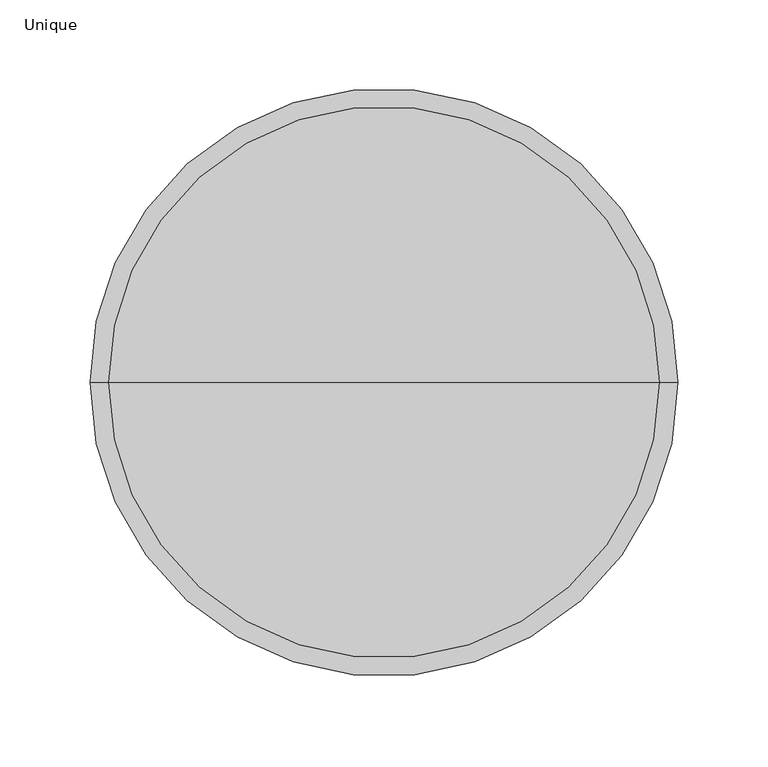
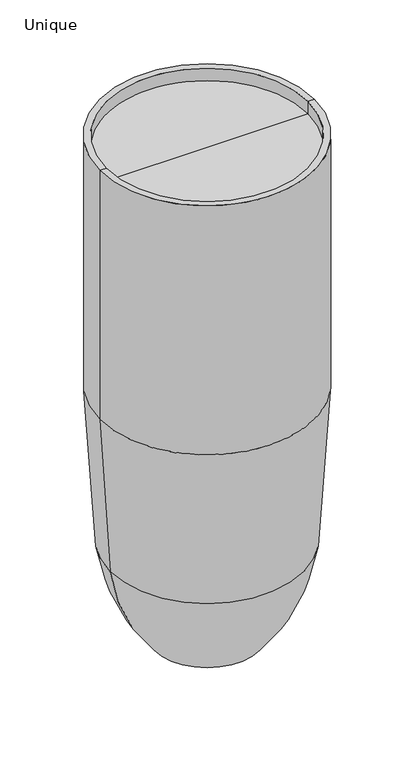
"""IFC4 building model written with IfcOpenShell, lengths in millimetres: proxy geometry, Snake Plant Concrete Vase : Unique."""

from ifc_helpers import new_model, si_unit, point, frame, origin, origin_with_axes, place, context, project, spatial, polyline, circle_curve, ellipse_curve, trimmed, source, transform, mapped, element, save
from ifc_brep_helpers import plane_surface, cylinder_surface, revolved_surface, advanced_brep


def unique_76ef0c16(model_context):
    return source(origin(), model_context, "Body", "AdvancedBrep", [
        advanced_brep(
        [(-153.2177945, 0.0, 400.0349728), (153.2177945, 0.0, 400.0349728), (137.1543168, 0.0, 151.2863588), (-137.1543168, 0.0, 151.2863588), (75.3713087, 0.0, 10.0), (-75.3713087, 0.0, 10.0), (0.0, 0.0, 10.0), (0.0, 0.0, 780.0), (153.2177945, 0.0, 780.0), (-153.2177945, 0.0, 780.0)],
        [
            (0, 1, circle_curve(frame((0.0, 0.0, 400.0349728), z_axis=(0.0, 0.0, -1.0), x_axis=(1.0, 0.0, 0.0)), 153.2177945)),
            (1, 2, circle_curve(frame((-1780.2523564, 0.0, 400.0), z_axis=(0.0, 1.0, 0.0), x_axis=(1.0, 0.0, 0.0)), 1933.4701513)),
            (2, 3, circle_curve(frame((0.0, 0.0, 151.2863588), z_axis=(0.0, 0.0, 1.0), x_axis=(1.0, 0.0, 0.0)), 137.1543168)),
            (3, 0, circle_curve(frame((1780.2523564, 0.0, 400.0), z_axis=(0.0, 1.0, 0.0), x_axis=(-1.0, 0.0, 0.0)), 1933.4701513)),
            (1, 0, circle_curve(frame((0.0, 0.0, 400.0349728), z_axis=(0.0, 0.0, -1.0), x_axis=(1.0, 0.0, 0.0)), 153.2177945)),
            (3, 2, circle_curve(frame((0.0, 0.0, 151.2863588), z_axis=(0.0, 0.0, 1.0), x_axis=(1.0, 0.0, 0.0)), 137.1543168)),
            (2, 4, circle_curve(frame((-136.4423955, 0.0, 186.7755618), z_axis=(0.0, 1.0, 0.0), x_axis=(1.0, 0.0, 0.0)), 275.8888264)),
            (4, 5, circle_curve(frame((0.0, 0.0, 10.0), z_axis=(0.0, 0.0, 1.0), x_axis=(1.0, 0.0, 0.0)), 75.3713087)),
            (5, 3, circle_curve(frame((136.4423955, 0.0, 186.7755618), z_axis=(0.0, 1.0, 0.0), x_axis=(-1.0, 0.0, 0.0)), 275.8888264)),
            (5, 4, circle_curve(frame((0.0, 0.0, 10.0), z_axis=(0.0, 0.0, 1.0), x_axis=(1.0, 0.0, 0.0)), 75.3713087)),
            (4, 6),
            (6, 5),
            (7, 8),
            (8, 9, circle_curve(frame((0.0, 0.0, 780.0), z_axis=(0.0, 0.0, 1.0), x_axis=(1.0, 0.0, 0.0)), 153.2177945)),
            (9, 7),
            (9, 8, circle_curve(frame((0.0, 0.0, 780.0), z_axis=(0.0, 0.0, 1.0), x_axis=(1.0, 0.0, 0.0)), 153.2177945)),
            (8, 1),
            (0, 9),
        ],
        [
            revolved_surface(trimmed(ellipse_curve(frame((-1780.2523564, 0.0, 400.0), z_axis=(0.0, -1.0, 0.0), x_axis=(1.0, 0.0, 0.0)), 1933.4701513, 1933.4701513), [point((137.1543168, 0.0, 151.2863588))], [point((153.2177945, 0.0, 400.0349728))], True, "CARTESIAN"), (0.0, 0.0, 0.0), (0.0, 0.0, 1.0)),
            revolved_surface(trimmed(ellipse_curve(frame((-136.4423955, 0.0, 186.7755618), z_axis=(0.0, -1.0, 0.0), x_axis=(1.0, 0.0, 0.0)), 275.8888264, 275.8888264), [point((75.3713087, 0.0, 10.0))], [point((137.1543168, 0.0, 151.2863588))], True, "CARTESIAN"), (0.0, 0.0, 0.0), (0.0, 0.0, 1.0)),
            plane_surface(frame((0.0, 0.0, 10.0), z_axis=(0.0, 0.0, -1.0), x_axis=(1.0, 0.0, 0.0))),
            plane_surface(frame((0.0, 0.0, 780.0), z_axis=(0.0, 0.0, 1.0), x_axis=(1.0, 0.0, 0.0))),
            cylinder_surface(origin_with_axes(), 153.2177945),
        ],
        [
            (0, [[1, 2, 3, 4]]),
            (0, [[5, -4, 6, -2]]),
            (1, [[-3, 7, 8, 9]]),
            (1, [[-6, -9, 10, -7]]),
            (2, [[-8, 11, 12]]),
            (2, [[-10, -12, -11]]),
            (3, [[13, 14, 15]]),
            (3, [[-15, 16, -13]]),
            (4, [[-14, 17, -1, 18]]),
            (4, [[-16, -18, -5, -17]]),
        ],
    ),
        advanced_brep(
        [(-137.1543168, 0.0, 151.2863588), (137.1543168, 0.0, 151.2863588), (153.2177945, 0.0, 400.0349728), (-153.2177945, 0.0, 400.0349728), (-75.3713087, 0.0, 10.0), (75.3713087, 0.0, 10.0), (0.0, 0.0, 10.0), (-80.0, 0.0, 0.0), (80.0, 0.0, 0.0), (0.0, 0.0, 0.0), (-147.0712357, 0.0, 150.0), (147.0712357, 0.0, 150.0), (-163.2177945, 0.0, 400.0351537), (163.2177945, 0.0, 400.0351537), (-163.2177945, 0.0, 800.0), (163.2177945, 0.0, 800.0), (-153.2177945, 0.0, 800.0), (153.2177945, 0.0, 800.0)],
        [
            (0, 1, circle_curve(frame((0.0, 0.0, 151.2863588), z_axis=(0.0, 0.0, -1.0), x_axis=(1.0, 0.0, 0.0)), 137.1543168)),
            (1, 2, circle_curve(frame((-1780.2523564, 0.0, 400.0), z_axis=(0.0, -1.0, 0.0), x_axis=(1.0, 0.0, 0.0)), 1933.4701513)),
            (2, 3, circle_curve(frame((0.0, 0.0, 400.0349728), z_axis=(0.0, 0.0, 1.0), x_axis=(1.0, 0.0, 0.0)), 153.2177945)),
            (3, 0, circle_curve(frame((1780.2523564, 0.0, 400.0), z_axis=(0.0, -1.0, 0.0), x_axis=(-1.0, 0.0, 0.0)), 1933.4701513)),
            (1, 0, circle_curve(frame((0.0, 0.0, 151.2863588), z_axis=(0.0, 0.0, -1.0), x_axis=(1.0, 0.0, 0.0)), 137.1543168)),
            (3, 2, circle_curve(frame((0.0, 0.0, 400.0349728), z_axis=(0.0, 0.0, 1.0), x_axis=(1.0, 0.0, 0.0)), 153.2177945)),
            (4, 5, circle_curve(frame((0.0, 0.0, 10.0), z_axis=(0.0, 0.0, -1.0), x_axis=(1.0, 0.0, 0.0)), 75.3713087)),
            (5, 1, circle_curve(frame((-136.4423955, 0.0, 186.7755618), z_axis=(0.0, -1.0, 0.0), x_axis=(1.0, 0.0, 0.0)), 275.8888264)),
            (0, 4, circle_curve(frame((136.4423955, 0.0, 186.7755618), z_axis=(0.0, -1.0, 0.0), x_axis=(-1.0, 0.0, 0.0)), 275.8888264)),
            (5, 4, circle_curve(frame((0.0, 0.0, 10.0), z_axis=(0.0, 0.0, -1.0), x_axis=(1.0, 0.0, 0.0)), 75.3713087)),
            (6, 5),
            (4, 6),
            (7, 8, circle_curve(frame((0.0, 0.0, 0.0), z_axis=(0.0, 0.0, -1.0), x_axis=(1.0, 0.0, 0.0)), 80.0)),
            (8, 9),
            (9, 7),
            (8, 7, circle_curve(frame((0.0, 0.0, 0.0), z_axis=(0.0, 0.0, -1.0), x_axis=(1.0, 0.0, 0.0)), 80.0)),
            (10, 11, circle_curve(frame((0.0, 0.0, 150.0), z_axis=(0.0, 0.0, -1.0), x_axis=(1.0, 0.0, 0.0)), 147.0712357)),
            (11, 8, circle_curve(frame((-136.4423955, 0.0, 186.7755618), z_axis=(0.0, 1.0, 0.0), x_axis=(1.0, 0.0, 0.0)), 285.8888264)),
            (7, 10, circle_curve(frame((136.4423955, 0.0, 186.7755618), z_axis=(0.0, 1.0, 0.0), x_axis=(-1.0, 0.0, 0.0)), 285.8888264)),
            (11, 10, circle_curve(frame((0.0, 0.0, 150.0), z_axis=(0.0, 0.0, -1.0), x_axis=(1.0, 0.0, 0.0)), 147.0712357)),
            (12, 13, circle_curve(frame((0.0, 0.0, 400.0351537), z_axis=(0.0, 0.0, -1.0), x_axis=(1.0, 0.0, 0.0)), 163.2177945)),
            (13, 11, circle_curve(frame((-1780.2523564, 0.0, 400.0), z_axis=(0.0, 1.0, 0.0), x_axis=(1.0, 0.0, 0.0)), 1943.4701513)),
            (10, 12, circle_curve(frame((1780.2523564, 0.0, 400.0), z_axis=(0.0, 1.0, 0.0), x_axis=(-1.0, 0.0, 0.0)), 1943.4701513)),
            (13, 12, circle_curve(frame((0.0, 0.0, 400.0351537), z_axis=(0.0, 0.0, -1.0), x_axis=(1.0, 0.0, 0.0)), 163.2177945)),
            (14, 15, circle_curve(frame((0.0, 0.0, 800.0), z_axis=(0.0, 0.0, -1.0), x_axis=(1.0, 0.0, 0.0)), 163.2177945)),
            (15, 13),
            (12, 14),
            (15, 14, circle_curve(frame((0.0, 0.0, 800.0), z_axis=(0.0, 0.0, -1.0), x_axis=(1.0, 0.0, 0.0)), 163.2177945)),
            (16, 17, circle_curve(frame((0.0, 0.0, 800.0), z_axis=(0.0, 0.0, -1.0), x_axis=(1.0, 0.0, 0.0)), 153.2177945)),
            (17, 15),
            (14, 16),
            (17, 16, circle_curve(frame((0.0, 0.0, 800.0), z_axis=(0.0, 0.0, -1.0), x_axis=(1.0, 0.0, 0.0)), 153.2177945)),
            (2, 17),
            (16, 3),
        ],
        [
            revolved_surface(trimmed(ellipse_curve(frame((-1780.2523564, 0.0, 400.0), z_axis=(0.0, 1.0, 0.0), x_axis=(1.0, 0.0, 0.0)), 1933.4701513, 1933.4701513), [point((153.2177945, 0.0, 400.0349728))], [point((137.1543168, 0.0, 151.2863588))], True, "CARTESIAN"), (0.0, 0.0, 0.0), (0.0, 0.0, 1.0)),
            revolved_surface(trimmed(ellipse_curve(frame((-136.4423955, 0.0, 186.7755618), z_axis=(0.0, 1.0, 0.0), x_axis=(1.0, 0.0, 0.0)), 275.8888264, 275.8888264), [point((137.1543168, 0.0, 151.2863588))], [point((75.3713087, 0.0, 10.0))], True, "CARTESIAN"), (0.0, 0.0, 0.0), (0.0, 0.0, 1.0)),
            plane_surface(frame((0.0, 0.0, 10.0), z_axis=(0.0, 0.0, 1.0), x_axis=(1.0, 0.0, 0.0))),
            plane_surface(frame((0.0, 0.0, 0.0), z_axis=(0.0, 0.0, -1.0), x_axis=(1.0, 0.0, 0.0))),
            revolved_surface(trimmed(ellipse_curve(frame((-136.4423955, 0.0, 186.7755618), z_axis=(0.0, -1.0, 0.0), x_axis=(1.0, 0.0, 0.0)), 285.8888264, 285.8888264), [point((80.0, 0.0, 0.0))], [point((147.0712357, 0.0, 150.0))], True, "CARTESIAN"), (0.0, 0.0, 0.0), (0.0, 0.0, 1.0)),
            revolved_surface(trimmed(ellipse_curve(frame((-1780.2523564, 0.0, 400.0), z_axis=(0.0, -1.0, 0.0), x_axis=(1.0, 0.0, 0.0)), 1943.4701513, 1943.4701513), [point((147.0712357, 0.0, 150.0))], [point((163.2177945, 0.0, 400.0351537))], True, "CARTESIAN"), (0.0, 0.0, 0.0), (0.0, 0.0, 1.0)),
            cylinder_surface(origin_with_axes(), 163.2177945),
            plane_surface(frame((0.0, 0.0, 800.0), z_axis=(0.0, 0.0, 1.0), x_axis=(1.0, 0.0, 0.0))),
            revolved_surface(polyline([(153.2177945, 0.0, 800.0), (153.2177945, 0.0, 400.0349728)]), (0.0, 0.0, 0.0), (0.0, 0.0, 1.0)),
        ],
        [
            (0, [[1, 2, 3, 4]]),
            (0, [[5, -4, 6, -2]]),
            (1, [[7, 8, -1, 9]]),
            (1, [[10, -9, -5, -8]]),
            (2, [[11, -7, 12]]),
            (2, [[-12, -10, -11]]),
            (3, [[13, 14, 15]]),
            (3, [[16, -15, -14]]),
            (4, [[17, 18, -13, 19]]),
            (4, [[20, -19, -16, -18]]),
            (5, [[21, 22, -17, 23]]),
            (5, [[24, -23, -20, -22]]),
            (6, [[25, 26, -21, 27]]),
            (6, [[28, -27, -24, -26]]),
            (7, [[29, 30, -25, 31]]),
            (7, [[32, -31, -28, -30]]),
            (8, [[-3, 33, -29, 34]]),
            (8, [[-6, -34, -32, -33]]),
        ],
    ),
    ])


if __name__ == "__main__":
    model = new_model("IFC4")
    model_context = context("Model", 3, world=origin())
    ifc_project = project(units=[si_unit("LENGTHUNIT", "METRE", prefix="MILLI")], contexts=[model_context])
    site = spatial("IfcSite", under=ifc_project)
    building = spatial("IfcBuilding", under=site)
    placement = place(None, origin())
    unique_shape = unique_76ef0c16(model_context)
    element("IfcBuildingElementProxy", 1, Name="Snake Plant Concrete Vase : Unique", ObjectType="Snake Plant Concrete Vase : Unique", at=placement, inside=building, context=model_context, shape_type="MappedRepresentation", body=[
        mapped(unique_shape, transform((0.0, 0.0, 0.0), x_axis=(1.0, 0.0, 0.0), y_axis=(0.0, 1.0, 0.0), z_axis=(0.0, 0.0, 1.0))),
    ])
    save(model, "model.ifc")
